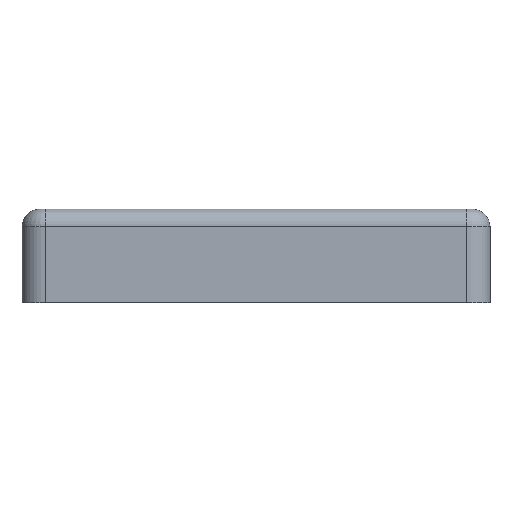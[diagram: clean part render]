
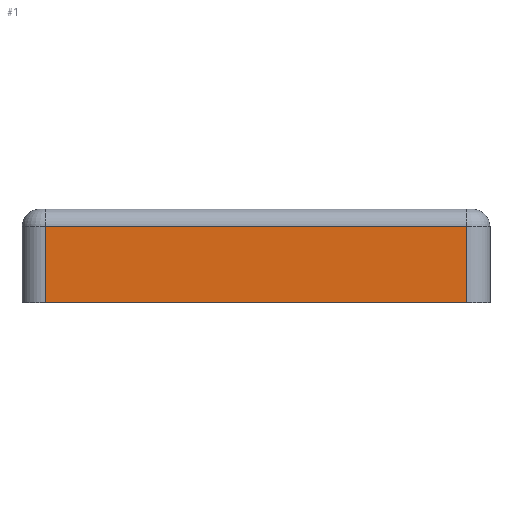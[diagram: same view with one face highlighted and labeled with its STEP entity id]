
A CAD part, front view. The second image highlights one B-rep face of the part: STEP entity #1.
In plain terms, the highlighted planar face has unit normal (0, -1, 0).
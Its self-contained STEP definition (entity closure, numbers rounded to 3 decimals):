
#1 = ADVANCED_FACE ( 'NONE', ( #2221 ), #4711, .T. ) ;
#38 = CARTESIAN_POINT ( 'NONE',  ( -36., -40., -3. ) ) ;
#76 = EDGE_CURVE ( 'NONE', #3000, #231, #5083, .T. ) ;
#174 = DIRECTION ( 'NONE',  ( 0., 0., 1. ) ) ;
#193 = EDGE_LOOP ( 'NONE', ( #4830, #1013, #711, #2074 ) ) ;
#231 = VERTEX_POINT ( 'NONE', #3336 ) ;
#389 = DIRECTION ( 'NONE',  ( 0., 0., 1. ) ) ;
#657 = DIRECTION ( 'NONE',  ( 0., 0., -1. ) ) ;
#685 = CARTESIAN_POINT ( 'NONE',  ( -36., -40., -16. ) ) ;
#711 = ORIENTED_EDGE ( 'NONE', *, *, #1846, .F. ) ;
#719 = CARTESIAN_POINT ( 'NONE',  ( 36., -40., -16. ) ) ;
#829 = CARTESIAN_POINT ( 'NONE',  ( -36., -40., -16. ) ) ;
#960 = VECTOR ( 'NONE', #2443, 1000. ) ;
#1013 = ORIENTED_EDGE ( 'NONE', *, *, #2146, .T. ) ;
#1025 = VECTOR ( 'NONE', #174, 1000. ) ;
#1846 = EDGE_CURVE ( 'NONE', #2102, #4692, #3752, .T. ) ;
#1996 = DIRECTION ( 'NONE',  ( -1., 0., 0. ) ) ;
#2074 = ORIENTED_EDGE ( 'NONE', *, *, #2077, .T. ) ;
#2077 = EDGE_CURVE ( 'NONE', #2102, #3000, #2392, .T. ) ;
#2102 = VERTEX_POINT ( 'NONE', #4065 ) ;
#2146 = EDGE_CURVE ( 'NONE', #231, #4692, #3670, .T. ) ;
#2221 = FACE_OUTER_BOUND ( 'NONE', #193, .T. ) ;
#2392 = LINE ( 'NONE', #829, #960 ) ;
#2443 = DIRECTION ( 'NONE',  ( 1., 0., 0. ) ) ;
#3000 = VERTEX_POINT ( 'NONE', #719 ) ;
#3045 = DIRECTION ( 'NONE',  ( 0., -1., 0. ) ) ;
#3057 = AXIS2_PLACEMENT_3D ( 'NONE', #685, #3045, #657 ) ;
#3144 = VECTOR ( 'NONE', #389, 1000. ) ;
#3336 = CARTESIAN_POINT ( 'NONE',  ( 36., -40., -3. ) ) ;
#3670 = LINE ( 'NONE', #38, #4936 ) ;
#3752 = LINE ( 'NONE', #3799, #1025 ) ;
#3799 = CARTESIAN_POINT ( 'NONE',  ( -36., -40., -16. ) ) ;
#3920 = CARTESIAN_POINT ( 'NONE',  ( 36., -40., -16. ) ) ;
#4065 = CARTESIAN_POINT ( 'NONE',  ( -36., -40., -16. ) ) ;
#4250 = CARTESIAN_POINT ( 'NONE',  ( -36., -40., -3. ) ) ;
#4692 = VERTEX_POINT ( 'NONE', #4250 ) ;
#4711 = PLANE ( 'NONE',  #3057 ) ;
#4830 = ORIENTED_EDGE ( 'NONE', *, *, #76, .T. ) ;
#4936 = VECTOR ( 'NONE', #1996, 1000. ) ;
#5083 = LINE ( 'NONE', #3920, #3144 ) ;
